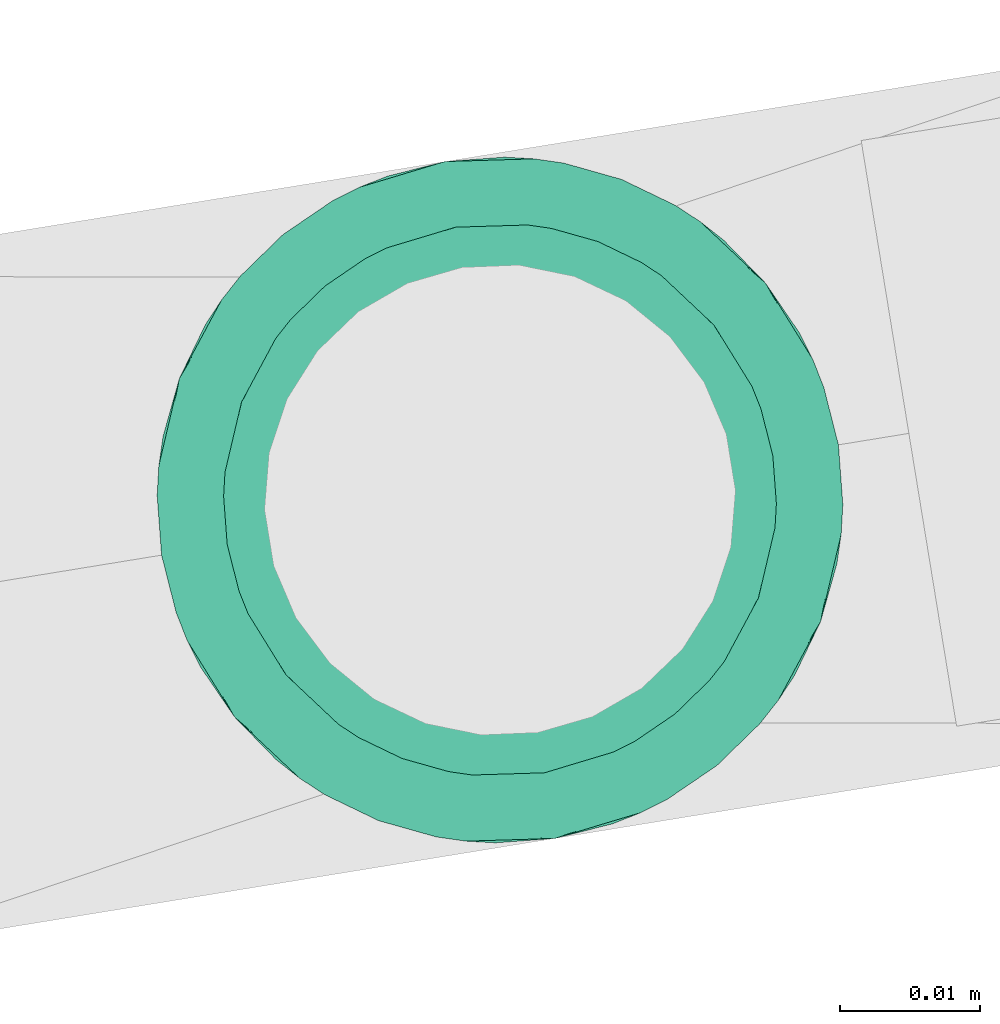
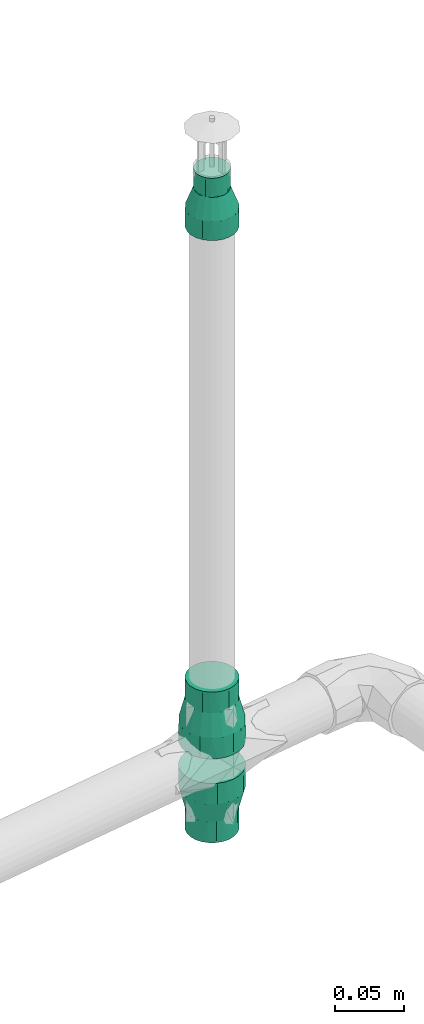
# One storey, part 37 of 46: 3 flow fittings.
"""IFC2X3 building model written with IfcOpenShell, lengths in millimetres."""

from ifc_helpers import new_model, entity, si_unit, converted_unit, derived_unit, direction, frame, origin, origin_with_axes, place, context, subcontext, project, spatial, faceted_brep, source, transform, mapped, material, type_object, element, save


model = new_model("IFC2X3")

# Units and contexts
model_context = context("Model", 3, precision=0.01, world=origin(), true_north=direction((6.12323399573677e-17, 1.0)))
plan_context = context("Plan", 3, precision=1e-05, world=origin_with_axes())
body_context = subcontext(model_context, "Body", "Model", "MODEL_VIEW")
ifc_project = project(units=[converted_unit("PLANEANGLEUNIT", "DEGREE", entity("IfcPositiveLengthMeasure", 0.0174532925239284), si_unit("PLANEANGLEUNIT", "RADIAN"), dimensions=[0, 0, 0, 0, 0, 0, 0]), si_unit("AREAUNIT", "SQUARE_METRE"), si_unit("LENGTHUNIT", "METRE", prefix="MILLI"), si_unit("MASSUNIT", "GRAM", prefix="KILO"), si_unit("POWERUNIT", "WATT"), si_unit("PRESSUREUNIT", "PASCAL", prefix="KILO"), si_unit("FORCEUNIT", "NEWTON", prefix="KILO"), si_unit("ELECTRICVOLTAGEUNIT", "VOLT"), si_unit("ELECTRICCURRENTUNIT", "AMPERE"), si_unit("THERMODYNAMICTEMPERATUREUNIT", "DEGREE_CELSIUS"), si_unit("TIMEUNIT", "SECOND"), si_unit("VOLUMEUNIT", "CUBIC_METRE"), derived_unit("LINEARVELOCITYUNIT", [(si_unit("LENGTHUNIT", "METRE"), 1), (si_unit("TIMEUNIT", "SECOND"), -1)]), derived_unit("VOLUMETRICFLOWRATEUNIT", [(si_unit("VOLUMEUNIT", "CUBIC_METRE"), 1), (si_unit("TIMEUNIT", "SECOND"), -1)]), derived_unit("THERMALTRANSMITTANCEUNIT", [(si_unit("POWERUNIT", "WATT"), 1), (si_unit("THERMODYNAMICTEMPERATUREUNIT", "KELVIN"), -1), (si_unit("AREAUNIT", "SQUARE_METRE"), -1)]), derived_unit("SOUNDPRESSUREUNIT", [(si_unit("PRESSUREUNIT", "PASCAL"), 1)])], contexts=[model_context, plan_context])

# Site, building, storey
site_placement = place(None, frame((-3.09682673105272e-06, 1.93776733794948e-05, 0.0), z_axis=(0.0, 0.0, 1.0), x_axis=(-0.160806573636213, 0.986985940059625, 0.0)))
site = spatial("IfcSite", under=ifc_project, at=site_placement, Name="Default", CompositionType="ELEMENT")
building_placement = place(site_placement, frame((0.0, 0.0, 0.0), z_axis=(0.0, 0.0, 1.0), x_axis=(1.0, -2.77555756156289e-17, 0.0)))
building = spatial("IfcBuilding", under=site, at=building_placement, Name="Bygning (endres i Project Information)", CompositionType="ELEMENT")
storey_placement = place(building_placement, frame((0.0, 0.0, 51360.0000000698), z_axis=(0.0, 0.0, 1.0), x_axis=(1.0, -2.77555756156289e-17, 0.0)))
storey = spatial("IfcBuildingStorey", under=building, at=storey_placement, Name="H01-Nivå D+0,36", CompositionType="ELEMENT", Elevation=51360.0000000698)

# Flow fittings
ifc_material = material(Name="3320.001")
pipe_fitting_type_1 = type_object("IfcPipeFittingType", Name="RS_53_PIF_UN_Reducing-Socket-EN10241_MC_gen:RS_53_PIF_UN_Reducing-Socket-EN10241_MC_gen", PredefinedType="NOTDEFINED", material=ifc_material)
shared_shape_1 = source(origin(), body_context, "Body", "Brep", [
    faceted_brep([(0.0, 0.0, 24.5), (0.0, 6.34106660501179, 23.6651827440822), (0.0, 12.25, 21.2176223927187), (0.0, 17.3241161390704, 17.3241161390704), (0.0, 21.2176223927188, 12.25), (0.0, 23.6651827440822, 6.34106660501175), (0.0, 24.5, 0.0), (0.0, 23.6651827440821, -6.34106660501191), (0.0, 21.2176223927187, -12.2500000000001), (0.0, 17.3241161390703, -17.3241161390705), (0.0, 12.2499999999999, -21.2176223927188), (0.0, 6.34106660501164, -23.6651827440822), (0.0, 0.0, -24.5), (0.0, -6.34106660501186, -23.6651827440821), (0.0, -12.2500000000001, -21.2176223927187), (0.0, -17.3241161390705, -17.3241161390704), (0.0, -21.2176223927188, -12.2499999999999), (0.0, -23.6651827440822, -6.34106660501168), (0.0, -24.5, 0.0), (0.0, -23.6651827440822, 6.34106660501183), (0.0, -21.2176223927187, 12.2500000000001), (0.0, -17.3241161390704, 17.3241161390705), (0.0, -12.25, 21.2176223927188), (0.0, -6.34106660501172, 23.6651827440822), (18.6666666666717, -8.25137606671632, -22.6729794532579), (18.6666666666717, -18.7677686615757, -15.7486780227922), (18.6666666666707, -20.8950763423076, -12.0642027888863), (18.6666666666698, -23.0223840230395, -8.37972755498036), (18.6666666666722, -12.2493529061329, -21.2179959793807), (18.6666666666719, -15.5085607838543, -18.4833370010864), (18.6666666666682, -23.7125607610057, -4.46565710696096), (18.6666666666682, -23.7611920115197, -4.18986377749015), (18.6666666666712, -4.25339922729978, -24.1279629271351), (18.6666666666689, 4.25560674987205, -24.1275736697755), (18.6666666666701, 0.00110376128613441, -24.1277682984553), (18.6666666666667, -24.5, 0.0), (18.6666666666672, 8.25345045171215, -22.6722244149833), (18.6666666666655, 12.2512941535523, -21.2168751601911), (18.6666666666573, 23.0231506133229, -8.37762113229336), (18.6666666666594, 20.8961800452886, -12.062290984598), (18.6666666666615, 18.7692094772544, -15.7469608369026), (18.6666666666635, 15.5102518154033, -18.4819179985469), (18.6666666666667, 24.5, 0.0), (18.6666666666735, 18.7692094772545, 15.7469608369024), (18.666666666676, 20.8961800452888, 12.0622909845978), (18.6666666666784, 23.023150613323, 8.3776211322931), (18.6666666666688, 12.2512941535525, 21.216875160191), (18.6666666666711, 15.5102518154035, 18.4819179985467), (18.6666666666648, 4.25560674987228, 24.1275736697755), (18.6666666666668, 8.25345045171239, 22.6722244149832), (18.6666666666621, -4.25339922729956, 24.1279629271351), (18.6666666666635, 0.00110376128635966, 24.1277682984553), (18.6666666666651, -23.7611920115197, 4.1898637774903), (18.6666666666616, -8.25137606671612, 22.672979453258), (18.666666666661, -12.2493529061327, 21.2179959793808), (18.6666666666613, -15.5085607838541, 18.4833370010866), (18.6666666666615, -18.7677686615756, 15.7486780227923), (18.6666666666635, -23.0223840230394, 8.37972755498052), (18.6666666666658, -23.7125607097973, 4.46565739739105), (18.6666666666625, -20.8950763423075, 12.0642027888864), (37.3333333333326, 19.750000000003, 0.0), (37.3333333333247, 18.5595959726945, -6.75306577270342), (37.3333333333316, 9.87626627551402, -17.1032705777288), (37.3333333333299, 12.5033702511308, -14.8985095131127), (37.3333333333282, 15.1304742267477, -12.6937484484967), (37.3333333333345, 3.43075149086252, -19.4497414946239), (37.333333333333, 6.65350888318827, -18.2765060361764), (37.3333333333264, 16.8450350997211, -9.72340711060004), (37.3333333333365, -3.42859151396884, -19.4501223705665), (37.3333333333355, 0.00107998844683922, -19.4499319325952), (37.3333333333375, -9.87436684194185, -17.1043672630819), (37.333333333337, -6.65147917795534, -18.2772448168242), (37.3333333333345, -19.1544229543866, -3.37756341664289), (37.3333333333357, -18.558845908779, -6.75512683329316), (37.3333333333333, -19.7499999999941, 0.0), (37.3333333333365, -16.8439551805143, -9.72527774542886), (37.3333333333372, -15.1290644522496, -12.6954286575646), (37.3333333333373, -12.5017156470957, -14.8998979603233), (37.3333333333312, -18.5588459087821, 6.755126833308), (37.3333333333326, -19.1544229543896, 3.37756341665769), (37.3333333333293, -15.1290644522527, 12.6954286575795), (37.3333333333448, 18.559595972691, 6.75306577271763), (37.3333333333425, 16.8450350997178, 9.72340711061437), (37.3333333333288, -9.87436684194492, 17.104367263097), (37.3333333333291, -12.5017156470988, 14.8998979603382), (37.3333333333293, -6.65147917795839, 18.2772448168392), (37.3333333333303, -16.8439551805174, 9.72527774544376), (37.333333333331, 0.00107998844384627, 19.4499319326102), (37.3333333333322, 3.43075149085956, 19.4497414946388), (37.3333333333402, 15.1304742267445, 12.6937484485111), (37.333333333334, 6.65350888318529, 18.2765060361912), (37.3333333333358, 9.87626627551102, 17.1032705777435), (37.333333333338, 12.5033702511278, 14.8985095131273), (37.3333333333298, -3.42859151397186, 19.4501223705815), (56.0, 5.11167614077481, -19.0770350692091), (56.0, 9.87500000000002, -17.1040017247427), (56.0, 13.9653589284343, -13.9653589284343), (56.0, 17.1040017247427, -9.87499999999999), (56.0, 19.0770350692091, -5.11167614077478), (56.0, 19.75, 0.0), (56.0, 19.0770350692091, 5.1116761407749), (56.0, 17.1040017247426, 9.8750000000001), (56.0, 13.9653589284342, 13.9653589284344), (56.0, 9.87499999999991, 17.1040017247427), (56.0, 5.11167614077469, 19.0770350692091), (56.0, 0.0, 19.75), (56.0, -5.11167614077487, 19.0770350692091), (56.0, -9.87500000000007, 17.1040017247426), (56.0, -13.9653589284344, 13.9653589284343), (56.0, -17.1040017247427, 9.87499999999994), (56.0, -19.0770350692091, 5.11167614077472), (56.0, -19.75, 0.0), (56.0, -19.0770350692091, -5.11167614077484), (56.0, -17.1040017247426, -9.87500000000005), (56.0, -13.9653589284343, -13.9653589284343), (56.0, -9.87499999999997, -17.1040017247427), (56.0, -5.11167614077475, -19.0770350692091), (56.0, 0.0, -19.75)], [[[0, 1, 2, 3, 4, 5, 6, 7, 8, 9, 10, 11, 12, 13, 14, 15, 16, 17, 18, 19, 20, 21, 22, 23]], [[24, 14, 13]], [[16, 15, 25]], [[16, 25, 26, 27]], [[28, 29, 14]], [[17, 27, 30, 31]], [[31, 18, 17]], [[16, 27, 17]], [[13, 32, 24]], [[25, 15, 29]], [[12, 33, 34, 32]], [[24, 28, 14]], [[14, 29, 15]], [[31, 35, 18]], [[33, 12, 11]], [[36, 10, 37]], [[8, 38, 39, 40]], [[10, 36, 11]], [[8, 7, 38]], [[9, 40, 41]], [[33, 11, 36]], [[8, 40, 9]], [[41, 37, 10]], [[7, 42, 38]], [[7, 6, 42]], [[12, 32, 13]], [[41, 10, 9]], [[42, 6, 5]], [[4, 3, 43]], [[4, 43, 44, 45]], [[46, 47, 2]], [[45, 42, 5]], [[1, 48, 49]], [[43, 3, 47]], [[0, 50, 51, 48]], [[2, 47, 3]], [[50, 0, 23]], [[0, 48, 1]], [[18, 52, 19]], [[53, 22, 54]], [[49, 2, 1]], [[55, 22, 21]], [[35, 52, 18]], [[4, 45, 5]], [[22, 53, 23]], [[21, 56, 55]], [[50, 23, 53]], [[49, 46, 2]], [[20, 56, 21]], [[57, 20, 19]], [[19, 52, 58, 57]], [[55, 54, 22]], [[59, 56, 20, 57]], [[42, 60, 61]], [[41, 62, 37]], [[63, 40, 64]], [[40, 39, 64]], [[33, 36, 65]], [[65, 36, 66]], [[38, 42, 61]], [[64, 39, 67]], [[41, 40, 63]], [[36, 37, 66]], [[62, 41, 63]], [[38, 67, 39]], [[68, 34, 69]], [[68, 32, 34]], [[24, 70, 28]], [[32, 68, 71]], [[72, 35, 31, 30]], [[73, 27, 26]], [[72, 74, 35]], [[26, 75, 73]], [[76, 25, 29]], [[29, 77, 76]], [[70, 24, 71]], [[24, 32, 71]], [[70, 77, 28]], [[76, 75, 25]], [[28, 77, 29]], [[25, 75, 26]], [[73, 30, 27]], [[30, 73, 72]], [[66, 37, 62]], [[69, 34, 33]], [[69, 33, 65]], [[67, 38, 61]], [[78, 58, 79]], [[80, 55, 56]], [[81, 45, 82]], [[78, 59, 57]], [[83, 53, 54]], [[55, 80, 84]], [[79, 58, 52, 35]], [[78, 57, 58]], [[84, 54, 55]], [[85, 50, 53]], [[79, 35, 74]], [[86, 56, 59]], [[84, 83, 54]], [[48, 87, 88]], [[49, 48, 88]], [[59, 78, 86]], [[53, 83, 85]], [[87, 48, 51]], [[81, 60, 42]], [[44, 43, 89]], [[90, 46, 49]], [[47, 46, 91]], [[86, 80, 56]], [[82, 45, 44]], [[49, 88, 90]], [[92, 43, 47]], [[91, 46, 90]], [[51, 50, 93]], [[42, 45, 81]], [[85, 93, 50]], [[44, 89, 82]], [[51, 93, 87]], [[47, 91, 92]], [[89, 43, 92]], [[94, 95, 96, 97, 98, 99, 100, 101, 102, 103, 104, 105, 106, 107, 108, 109, 110, 111, 112, 113, 114, 115, 116, 117]], [[60, 99, 98]], [[97, 96, 64]], [[97, 64, 67, 61]], [[62, 63, 95]], [[61, 60, 98]], [[94, 65, 66]], [[64, 96, 63]], [[117, 68, 69, 65]], [[95, 63, 96]], [[117, 116, 68]], [[77, 70, 115]], [[66, 95, 94]], [[115, 70, 71]], [[113, 112, 73]], [[115, 71, 116]], [[117, 65, 94]], [[97, 61, 98]], [[72, 111, 74]], [[71, 68, 116]], [[113, 76, 114]], [[114, 76, 77]], [[77, 115, 114]], [[113, 73, 75, 76]], [[111, 72, 112]], [[66, 62, 95]], [[72, 73, 112]], [[85, 107, 106]], [[109, 108, 80]], [[109, 80, 86, 78]], [[83, 84, 107]], [[110, 78, 79]], [[79, 111, 110]], [[109, 78, 110]], [[106, 93, 85]], [[80, 108, 84]], [[105, 88, 87, 93]], [[85, 83, 107]], [[107, 84, 108]], [[79, 74, 111]], [[88, 105, 104]], [[90, 103, 91]], [[101, 81, 82, 89]], [[103, 90, 104]], [[101, 100, 81]], [[102, 89, 92]], [[88, 104, 90]], [[101, 89, 102]], [[92, 91, 103]], [[100, 60, 81]], [[100, 99, 60]], [[105, 93, 106]], [[92, 103, 102]]]),
])
flow_fitting_1_placement = place(storey_placement, frame((1008686.77221849, -351978.631006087, 3289.06935842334), z_axis=(1.0, -2.77555756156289e-17, 0.0), x_axis=(0.0, 0.0, -1.0)))
element("IfcFlowFitting", 1, at=flow_fitting_1_placement, inside=storey, type_object=pipe_fitting_type_1, material=ifc_material, Name="RS_53_PIF_UN_Reducing-Socket-EN10241_MC_gen:RS_53_PIF_UN_Reducing-Socket-EN10241_MC_gen", ObjectType="RS_53_PIF_UN_Reducing-Socket-EN10241_MC_gen:RS_53_PIF_UN_Reducing-Socket-EN10241_MC_gen", context=body_context, shape_type="MappedRepresentation", body=[
    mapped(shared_shape_1, transform((0.0, 0.0, 0.0), scale=1.0)),
])
pipe_fitting_type_2 = type_object("IfcPipeFittingType", Name="RS_53_PIF_UN_Reducing-Socket-EN10241_MC_gen:RS_53_PIF_UN_Reducing-Socket-EN10241_MC_gen", PredefinedType="NOTDEFINED", material=ifc_material)
shared_shape_2 = source(origin(), body_context, "Body", "Brep", [
    faceted_brep([(0.0, 3.49405710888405, 13.0399986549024), (0.0, 6.75000000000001, 11.6913429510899), (0.0, 9.5459415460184, 9.54594154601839), (0.0, 11.6913429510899, 6.74999999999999), (0.0, 13.0399986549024, 3.49405710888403), (0.0, 13.5, 0.0), (0.0, 13.0399986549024, -3.49405710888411), (0.0, 11.6913429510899, -6.75000000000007), (0.0, 9.54594154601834, -9.54594154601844), (0.0, 6.74999999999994, -11.69134295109), (0.0, 3.49405710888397, -13.0399986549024), (0.0, 0.0, -13.5), (0.0, -3.49405710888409, -13.0399986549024), (0.0, -6.75000000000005, -11.6913429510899), (0.0, -9.54594154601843, -9.54594154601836), (0.0, -11.6913429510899, -6.74999999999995), (0.0, -13.0399986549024, -3.49405710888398), (0.0, -13.5, 0.0), (0.0, -13.0399986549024, 3.49405710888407), (0.0, -11.6913429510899, 6.75000000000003), (0.0, -9.54594154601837, 9.54594154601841), (0.0, -6.74999999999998, 11.6913429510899), (0.0, -3.49405710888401, 13.0399986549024), (0.0, 0.0, 13.5), (17.0, -4.54589529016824, -12.4935366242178), (17.0, -10.3411162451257, -8.67820919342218), (17.0, -11.5134189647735, -6.64791735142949), (17.0, -12.6857216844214, -4.61762550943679), (17.0, -6.74902240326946, -11.6919073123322), (17.0, -8.54506932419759, -10.1850582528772), (17.0, -13.0928608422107, -2.30881275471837), (17.0, -13.5, 0.0), (17.0, -2.34276817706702, -13.2951659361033), (17.0, 2.34610313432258, -13.2945778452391), (17.0, 0.00166747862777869, -13.2948718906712), (17.0, 8.54762393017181, -10.1829144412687), (17.0, 4.5490290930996, -12.4923959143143), (17.0, 6.75195505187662, -11.6902139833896), (17.0, 12.6868795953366, -4.61444320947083), (17.0, 11.5150862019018, -6.6450290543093), (17.0, 10.343292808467, -8.67561489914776), (17.0, 13.5, 0.0), (17.0, 10.3432928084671, 8.67561489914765), (17.0, 11.5150862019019, 6.64502905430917), (17.0, 12.6868795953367, 4.61444320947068), (17.0, 6.75195505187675, 11.6902139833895), (17.0, 8.54762393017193, 10.1829144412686), (17.0, 2.34610313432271, 13.2945778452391), (17.0, 4.54902909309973, 12.4923959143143), (17.0, -2.3427681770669, 13.2951659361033), (17.0, 0.00166747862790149, 13.2948718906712), (17.0, -12.6857216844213, 4.61762550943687), (17.0, -8.5450693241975, 10.1850582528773), (17.0, -13.0928608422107, 2.30881275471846), (17.0, -11.5134189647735, 6.64791735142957), (17.0, -10.3411162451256, 8.67820919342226), (17.0, -4.54589529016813, 12.4935366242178), (17.0, -6.74902240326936, 11.6919073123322), (34.0, -18.5588149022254, -6.75521201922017), (34.0, 18.5598439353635, -6.75238425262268), (34.0, -9.87413131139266, -17.104503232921), (34.0, -3.42823440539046, -19.4501853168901), (34.0, 0.00148173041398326, -19.4499240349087), (34.0, -6.65118285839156, -18.2773442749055), (34.0, -12.5015396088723, -14.9000353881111), (34.0, -15.1289479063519, -12.6955675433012), (34.0, -16.8438814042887, -9.72538978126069), (34.0, -19.1648351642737, -3.3184704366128), (34.0, 9.87673730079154, -17.1029985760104), (34.0, 15.1308820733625, -12.6932622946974), (34.0, 3.43119786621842, -19.4496627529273), (34.0, 6.65396758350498, -18.2763306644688), (34.0, 16.845363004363, -9.72282327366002), (34.0, 12.503809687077, -14.8981304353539), (34.0, 19.7500000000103, 0.0), (34.0, -19.7499999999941, 0.0), (34.0, -19.1544074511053, 3.37760600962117), (34.0, -6.65118285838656, 18.2773442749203), (34.0, -12.5015396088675, 14.9000353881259), (34.0, 3.43119786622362, 19.4496627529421), (34.0, 6.65396758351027, 18.2763306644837), (34.0, 9.87673730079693, 17.1029985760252), (34.0, 12.5038096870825, 14.8981304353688), (34.0, 15.1308820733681, 12.6932622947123), (34.0, 16.8453630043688, 9.72282327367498), (34.0, 18.5598439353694, 6.75238425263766), (34.0, -16.843881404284, 9.7253897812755), (34.0, -18.5588149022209, 6.75521201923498), (34.0, -3.42823440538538, 19.4501853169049), (34.0, 0.00148173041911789, 19.4499240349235), (34.0, -9.87413131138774, 17.1045032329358), (34.0, -15.1289479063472, 12.695567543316), (51.0, 5.11167614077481, -19.0770350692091), (51.0, 9.87500000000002, -17.1040017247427), (51.0, 13.9653589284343, -13.9653589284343), (51.0, 17.1040017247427, -9.87499999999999), (51.0, 19.0770350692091, -5.11167614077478), (51.0, 19.75, 0.0), (51.0, 19.0770350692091, 5.1116761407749), (51.0, 17.1040017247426, 9.8750000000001), (51.0, 13.9653589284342, 13.9653589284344), (51.0, 9.87499999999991, 17.1040017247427), (51.0, 5.11167614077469, 19.0770350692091), (51.0, 0.0, 19.75), (51.0, -5.11167614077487, 19.0770350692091), (51.0, -9.87500000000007, 17.1040017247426), (51.0, -13.9653589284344, 13.9653589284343), (51.0, -17.1040017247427, 9.87499999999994), (51.0, -19.0770350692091, 5.11167614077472), (51.0, -19.75, 0.0), (51.0, -19.0770350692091, -5.11167614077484), (51.0, -17.1040017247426, -9.87500000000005), (51.0, -13.9653589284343, -13.9653589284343), (51.0, -9.87499999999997, -17.1040017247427), (51.0, -5.11167614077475, -19.0770350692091), (51.0, 0.0, -19.75)], [[[0, 1, 2, 3, 4, 5, 6, 7, 8, 9, 10, 11, 12, 13, 14, 15, 16, 17, 18, 19, 20, 21, 22, 23]], [[24, 13, 12]], [[15, 14, 25]], [[15, 25, 26, 27]], [[28, 29, 13]], [[16, 27, 30]], [[30, 31, 17]], [[30, 17, 16]], [[12, 32, 24]], [[25, 14, 29]], [[11, 33, 34, 32]], [[35, 9, 8]], [[13, 29, 14]], [[24, 28, 13]], [[33, 11, 10]], [[36, 9, 37]], [[7, 38, 39, 40]], [[9, 36, 10]], [[7, 6, 38]], [[8, 40, 35]], [[33, 10, 36]], [[11, 32, 12]], [[7, 40, 8]], [[6, 41, 38]], [[15, 27, 16]], [[6, 5, 41]], [[35, 37, 9]], [[41, 5, 4]], [[3, 2, 42]], [[3, 42, 43, 44]], [[45, 46, 1]], [[44, 41, 4]], [[0, 47, 48]], [[42, 2, 46]], [[23, 49, 50, 47]], [[1, 46, 2]], [[48, 1, 0]], [[48, 45, 1]], [[3, 44, 4]], [[22, 49, 23]], [[19, 18, 51]], [[52, 21, 20]], [[17, 53, 18]], [[19, 51, 54, 55]], [[17, 31, 53]], [[56, 49, 22]], [[21, 57, 56]], [[19, 55, 20]], [[21, 56, 22]], [[20, 55, 52]], [[23, 47, 0]], [[53, 51, 18]], [[52, 57, 21]], [[58, 30, 27]], [[38, 59, 39]], [[28, 60, 29]], [[61, 32, 62]], [[63, 60, 28]], [[64, 65, 25]], [[64, 25, 29]], [[66, 58, 27]], [[66, 27, 26]], [[67, 31, 30]], [[26, 65, 66]], [[62, 32, 34]], [[25, 65, 26]], [[37, 68, 36]], [[29, 60, 64]], [[40, 69, 35]], [[34, 33, 70]], [[71, 70, 33]], [[71, 33, 36]], [[34, 70, 62]], [[72, 69, 40]], [[73, 68, 37]], [[74, 38, 41]], [[31, 67, 75]], [[39, 59, 72]], [[32, 61, 24]], [[35, 69, 73]], [[74, 59, 38]], [[58, 67, 30]], [[63, 28, 24]], [[24, 61, 63]], [[73, 37, 35]], [[36, 68, 71]], [[72, 40, 39]], [[41, 44, 74]], [[31, 76, 53]], [[57, 77, 56]], [[55, 78, 52]], [[47, 79, 80]], [[45, 81, 82]], [[46, 83, 42]], [[42, 83, 84]], [[43, 85, 44]], [[74, 44, 85]], [[46, 82, 83]], [[84, 85, 43]], [[51, 86, 54]], [[87, 51, 53]], [[81, 48, 80]], [[48, 81, 45]], [[49, 88, 89]], [[77, 57, 90]], [[56, 88, 49]], [[50, 79, 47]], [[86, 51, 87]], [[78, 55, 91]], [[75, 76, 31]], [[47, 80, 48]], [[77, 88, 56]], [[49, 89, 50]], [[86, 91, 54]], [[53, 76, 87]], [[45, 82, 46]], [[90, 52, 78]], [[42, 84, 43]], [[52, 90, 57]], [[50, 89, 79]], [[54, 91, 55]], [[92, 93, 94, 95, 96, 97, 98, 99, 100, 101, 102, 103, 104, 105, 106, 107, 108, 109, 110, 111, 112, 113, 114, 115]], [[74, 97, 96]], [[95, 94, 69]], [[95, 69, 72, 59]], [[68, 73, 93]], [[59, 74, 96]], [[92, 70, 71]], [[69, 94, 73]], [[115, 61, 62, 70]], [[93, 73, 94]], [[61, 115, 114]], [[111, 65, 112]], [[63, 113, 60]], [[95, 59, 96]], [[71, 68, 93]], [[64, 60, 113]], [[109, 75, 67]], [[113, 63, 114]], [[112, 65, 64]], [[61, 114, 63]], [[71, 93, 92]], [[109, 67, 110]], [[58, 111, 110]], [[110, 67, 58]], [[64, 113, 112]], [[66, 65, 111, 58]], [[115, 70, 92]], [[77, 105, 104]], [[107, 106, 91]], [[107, 91, 86, 87]], [[90, 78, 105]], [[108, 87, 76]], [[76, 109, 108]], [[107, 87, 108]], [[104, 88, 77]], [[91, 106, 78]], [[103, 79, 89, 88]], [[77, 90, 105]], [[105, 78, 106]], [[76, 75, 109]], [[79, 103, 102]], [[80, 101, 81]], [[99, 85, 84, 83]], [[101, 80, 102]], [[99, 98, 85]], [[100, 83, 82]], [[79, 102, 80]], [[99, 83, 100]], [[82, 81, 101]], [[98, 74, 85]], [[98, 97, 74]], [[103, 88, 104]], [[82, 101, 100]]]),
])
flow_fitting_2_placement = place(storey_placement, frame((1008686.77221849, -351978.631006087, 3818.99999993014), z_axis=(2.77555756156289e-17, 1.0, 0.0), x_axis=(0.0, 0.0, -1.0)))
element("IfcFlowFitting", 2, at=flow_fitting_2_placement, inside=storey, type_object=pipe_fitting_type_2, material=ifc_material, Name="RS_53_PIF_UN_Reducing-Socket-EN10241_MC_gen:RS_53_PIF_UN_Reducing-Socket-EN10241_MC_gen", ObjectType="RS_53_PIF_UN_Reducing-Socket-EN10241_MC_gen:RS_53_PIF_UN_Reducing-Socket-EN10241_MC_gen", context=body_context, shape_type="MappedRepresentation", body=[
    mapped(shared_shape_2, transform((0.0, 0.0, 0.0), scale=1.0)),
])
pipe_fitting_type_3 = type_object("IfcPipeFittingType", Name="RS_53_PIF_UN_Reducing-Socket-EN10241_MC_gen:RS_53_PIF_UN_Reducing-Socket-EN10241_MC_gen", PredefinedType="NOTDEFINED", material=ifc_material)
shared_shape_3 = source(origin(), body_context, "Body", "Brep", [
    faceted_brep([(0.0, -12.25, 21.2176223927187), (0.0, -6.34106660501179, 23.6651827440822), (0.0, 0.0, 24.5), (0.0, 6.34106660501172, 23.6651827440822), (0.0, 12.25, 21.2176223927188), (0.0, 17.3241161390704, 17.3241161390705), (0.0, 21.2176223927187, 12.2500000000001), (0.0, 23.6651827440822, 6.34106660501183), (0.0, 24.5, 0.0), (0.0, 23.6651827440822, -6.34106660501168), (0.0, 21.2176223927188, -12.2499999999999), (0.0, 17.3241161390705, -17.3241161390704), (0.0, 12.2500000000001, -21.2176223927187), (0.0, 6.34106660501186, -23.6651827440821), (0.0, 0.0, -24.5), (0.0, -6.34106660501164, -23.6651827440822), (0.0, -12.2499999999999, -21.2176223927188), (0.0, -17.3241161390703, -17.3241161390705), (0.0, -21.2176223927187, -12.2500000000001), (0.0, -23.6651827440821, -6.34106660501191), (0.0, -24.5, 0.0), (0.0, -23.6651827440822, 6.34106660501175), (0.0, -21.2176223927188, 12.25), (0.0, -17.3241161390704, 17.3241161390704), (18.6666666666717, 8.25137606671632, -22.6729794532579), (18.6666666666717, 18.7677686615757, -15.7486780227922), (18.6666666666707, 20.8950763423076, -12.0642027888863), (18.6666666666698, 23.0223840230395, -8.37972755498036), (18.6666666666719, 15.5085607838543, -18.4833370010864), (18.6666666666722, 12.2493529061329, -21.2179959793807), (18.6666666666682, 23.7611920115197, -4.18986377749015), (18.6666666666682, 23.7125607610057, -4.46565710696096), (18.6666666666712, 4.25339922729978, -24.1279629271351), (18.6666666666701, -0.00110376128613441, -24.1277682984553), (18.6666666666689, -4.25560674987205, -24.1275736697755), (18.6666666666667, 24.5, 0.0), (18.6666666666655, -12.2512941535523, -21.2168751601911), (18.6666666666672, -8.25345045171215, -22.6722244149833), (18.6666666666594, -20.8961800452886, -12.062290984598), (18.6666666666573, -23.0231506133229, -8.37762113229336), (18.6666666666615, -18.7692094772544, -15.7469608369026), (18.6666666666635, -15.5102518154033, -18.4819179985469), (18.6666666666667, -24.5, 0.0), (18.6666666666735, -18.7692094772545, 15.7469608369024), (18.666666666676, -20.8961800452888, 12.0622909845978), (18.6666666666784, -23.023150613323, 8.3776211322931), (18.6666666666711, -15.5102518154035, 18.4819179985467), (18.6666666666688, -12.2512941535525, 21.216875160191), (18.6666666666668, -8.25345045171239, 22.6722244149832), (18.6666666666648, -4.25560674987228, 24.1275736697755), (18.6666666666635, -0.00110376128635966, 24.1277682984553), (18.6666666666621, 4.25339922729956, 24.1279629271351), (18.6666666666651, 23.7611920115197, 4.1898637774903), (18.666666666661, 12.2493529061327, 21.2179959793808), (18.6666666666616, 8.25137606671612, 22.672979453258), (18.6666666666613, 15.5085607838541, 18.4833370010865), (18.6666666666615, 18.7677686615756, 15.7486780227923), (18.6666666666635, 23.0223840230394, 8.37972755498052), (18.6666666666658, 23.7125607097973, 4.46565739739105), (18.6666666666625, 20.8950763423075, 12.0642027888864), (37.3333333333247, -18.5595959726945, -6.75306577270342), (37.3333333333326, -19.750000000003, 0.0), (37.3333333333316, -9.87626627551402, -17.1032705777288), (37.3333333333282, -15.1304742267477, -12.6937484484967), (37.3333333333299, -12.5033702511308, -14.8985095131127), (37.3333333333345, -3.43075149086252, -19.4497414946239), (37.333333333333, -6.65350888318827, -18.2765060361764), (37.3333333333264, -16.8450350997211, -9.72340711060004), (37.3333333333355, -0.00107998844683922, -19.4499319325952), (37.3333333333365, 3.42859151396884, -19.4501223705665), (37.3333333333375, 9.87436684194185, -17.1043672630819), (37.333333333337, 6.65147917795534, -18.2772448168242), (37.3333333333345, 19.1544229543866, -3.37756341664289), (37.3333333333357, 18.558845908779, -6.75512683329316), (37.3333333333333, 19.7499999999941, 0.0), (37.3333333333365, 16.8439551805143, -9.72527774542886), (37.3333333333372, 15.1290644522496, -12.6954286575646), (37.3333333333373, 12.5017156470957, -14.8998979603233), (37.3333333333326, 19.1544229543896, 3.37756341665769), (37.3333333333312, 18.5588459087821, 6.755126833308), (37.3333333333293, 15.1290644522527, 12.6954286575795), (37.3333333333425, -16.8450350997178, 9.72340711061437), (37.3333333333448, -18.559595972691, 6.75306577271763), (37.3333333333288, 9.87436684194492, 17.104367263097), (37.3333333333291, 12.5017156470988, 14.8998979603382), (37.3333333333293, 6.65147917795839, 18.2772448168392), (37.3333333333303, 16.8439551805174, 9.72527774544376), (37.3333333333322, -3.43075149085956, 19.4497414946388), (37.333333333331, -0.00107998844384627, 19.4499319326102), (37.3333333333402, -15.1304742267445, 12.6937484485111), (37.333333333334, -6.65350888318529, 18.2765060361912), (37.3333333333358, -9.87626627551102, 17.1032705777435), (37.333333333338, -12.5033702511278, 14.8985095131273), (37.3333333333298, 3.42859151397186, 19.4501223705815), (56.0, 0.0, -19.75), (56.0, 5.11167614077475, -19.0770350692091), (56.0, 9.87499999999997, -17.1040017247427), (56.0, 13.9653589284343, -13.9653589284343), (56.0, 17.1040017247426, -9.87500000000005), (56.0, 19.0770350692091, -5.11167614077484), (56.0, 19.75, 0.0), (56.0, 19.0770350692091, 5.11167614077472), (56.0, 17.1040017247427, 9.87499999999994), (56.0, 13.9653589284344, 13.9653589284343), (56.0, 9.87500000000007, 17.1040017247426), (56.0, 5.11167614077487, 19.0770350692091), (56.0, 0.0, 19.75), (56.0, -5.11167614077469, 19.0770350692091), (56.0, -9.87499999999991, 17.1040017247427), (56.0, -13.9653589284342, 13.9653589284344), (56.0, -17.1040017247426, 9.8750000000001), (56.0, -19.0770350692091, 5.1116761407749), (56.0, -19.75, 0.0), (56.0, -19.0770350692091, -5.11167614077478), (56.0, -17.1040017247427, -9.87499999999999), (56.0, -13.9653589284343, -13.9653589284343), (56.0, -9.87500000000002, -17.1040017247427), (56.0, -5.11167614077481, -19.0770350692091)], [[[0, 1, 2, 3, 4, 5, 6, 7, 8, 9, 10, 11, 12, 13, 14, 15, 16, 17, 18, 19, 20, 21, 22, 23]], [[13, 12, 24]], [[25, 11, 10]], [[26, 25, 10, 27]], [[12, 28, 29]], [[9, 30, 31, 27]], [[9, 8, 30]], [[9, 27, 10]], [[24, 32, 13]], [[28, 11, 25]], [[33, 34, 14, 32]], [[12, 29, 24]], [[11, 28, 12]], [[8, 35, 30]], [[15, 14, 34]], [[36, 16, 37]], [[38, 39, 18, 40]], [[15, 37, 16]], [[39, 19, 18]], [[41, 40, 17]], [[37, 15, 34]], [[17, 40, 18]], [[16, 36, 41]], [[39, 42, 19]], [[42, 20, 19]], [[13, 32, 14]], [[17, 16, 41]], [[21, 20, 42]], [[43, 23, 22]], [[44, 43, 22, 45]], [[0, 46, 47]], [[21, 42, 45]], [[48, 49, 1]], [[46, 23, 43]], [[50, 51, 2, 49]], [[23, 46, 0]], [[3, 2, 51]], [[1, 49, 2]], [[7, 52, 8]], [[53, 4, 54]], [[1, 0, 48]], [[5, 4, 55]], [[8, 52, 35]], [[21, 45, 22]], [[3, 54, 4]], [[55, 56, 5]], [[54, 3, 51]], [[0, 47, 48]], [[5, 56, 6]], [[7, 6, 57]], [[7, 57, 58, 52]], [[4, 53, 55]], [[6, 56, 59, 57]], [[60, 61, 42]], [[36, 62, 41]], [[63, 40, 64]], [[63, 38, 40]], [[65, 37, 34]], [[66, 37, 65]], [[60, 42, 39]], [[67, 38, 63]], [[64, 40, 41]], [[66, 36, 37]], [[64, 41, 62]], [[38, 67, 39]], [[68, 33, 69]], [[33, 32, 69]], [[29, 70, 24]], [[71, 69, 32]], [[72, 31, 30, 35]], [[26, 27, 73]], [[35, 74, 72]], [[73, 75, 26]], [[28, 25, 76]], [[76, 77, 28]], [[71, 24, 70]], [[71, 32, 24]], [[29, 77, 70]], [[25, 75, 76]], [[28, 77, 29]], [[26, 75, 25]], [[27, 31, 73]], [[72, 73, 31]], [[62, 36, 66]], [[34, 33, 68]], [[65, 34, 68]], [[60, 39, 67]], [[78, 58, 79]], [[56, 55, 80]], [[81, 45, 82]], [[57, 59, 79]], [[53, 54, 83]], [[84, 80, 55]], [[78, 35, 52, 58]], [[58, 57, 79]], [[55, 53, 84]], [[54, 51, 85]], [[74, 35, 78]], [[59, 56, 86]], [[53, 83, 84]], [[87, 88, 49]], [[87, 49, 48]], [[86, 79, 59]], [[85, 83, 54]], [[50, 49, 88]], [[42, 61, 82]], [[89, 43, 44]], [[48, 47, 90]], [[91, 47, 46]], [[56, 80, 86]], [[44, 45, 81]], [[90, 87, 48]], [[46, 43, 92]], [[90, 47, 91]], [[93, 51, 50]], [[82, 45, 42]], [[51, 93, 85]], [[81, 89, 44]], [[88, 93, 50]], [[92, 91, 46]], [[92, 43, 89]], [[94, 95, 96, 97, 98, 99, 100, 101, 102, 103, 104, 105, 106, 107, 108, 109, 110, 111, 112, 113, 114, 115, 116, 117]], [[113, 112, 61]], [[63, 115, 114]], [[67, 63, 114, 60]], [[116, 64, 62]], [[113, 61, 60]], [[66, 65, 117]], [[64, 115, 63]], [[68, 69, 94, 65]], [[115, 64, 116]], [[69, 95, 94]], [[96, 70, 77]], [[117, 116, 66]], [[71, 70, 96]], [[73, 99, 98]], [[95, 71, 96]], [[117, 65, 94]], [[113, 60, 114]], [[74, 100, 72]], [[95, 69, 71]], [[97, 76, 98]], [[77, 76, 97]], [[97, 96, 77]], [[75, 73, 98, 76]], [[99, 72, 100]], [[116, 62, 66]], [[99, 73, 72]], [[105, 104, 85]], [[80, 103, 102]], [[86, 80, 102, 79]], [[104, 84, 83]], [[78, 79, 101]], [[101, 100, 78]], [[101, 79, 102]], [[85, 93, 105]], [[84, 103, 80]], [[88, 87, 106, 93]], [[104, 83, 85]], [[103, 84, 104]], [[100, 74, 78]], [[107, 106, 87]], [[91, 108, 90]], [[81, 82, 110, 89]], [[107, 90, 108]], [[82, 111, 110]], [[92, 89, 109]], [[90, 107, 87]], [[109, 89, 110]], [[108, 91, 92]], [[82, 61, 111]], [[61, 112, 111]], [[105, 93, 106]], [[109, 108, 92]]]),
])
flow_fitting_3_placement = place(storey_placement, frame((1008686.77221849, -351978.631006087, 3310.93602508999), z_axis=(-2.77555756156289e-17, -1.0, 0.0), x_axis=(0.0, 0.0, 1.0)))
element("IfcFlowFitting", 3, at=flow_fitting_3_placement, inside=storey, type_object=pipe_fitting_type_3, material=ifc_material, Name="RS_53_PIF_UN_Reducing-Socket-EN10241_MC_gen:RS_53_PIF_UN_Reducing-Socket-EN10241_MC_gen", ObjectType="RS_53_PIF_UN_Reducing-Socket-EN10241_MC_gen:RS_53_PIF_UN_Reducing-Socket-EN10241_MC_gen", context=body_context, shape_type="MappedRepresentation", body=[
    mapped(shared_shape_3, transform((0.0, 0.0, 0.0), scale=1.0)),
])

save(model, "model.ifc")
